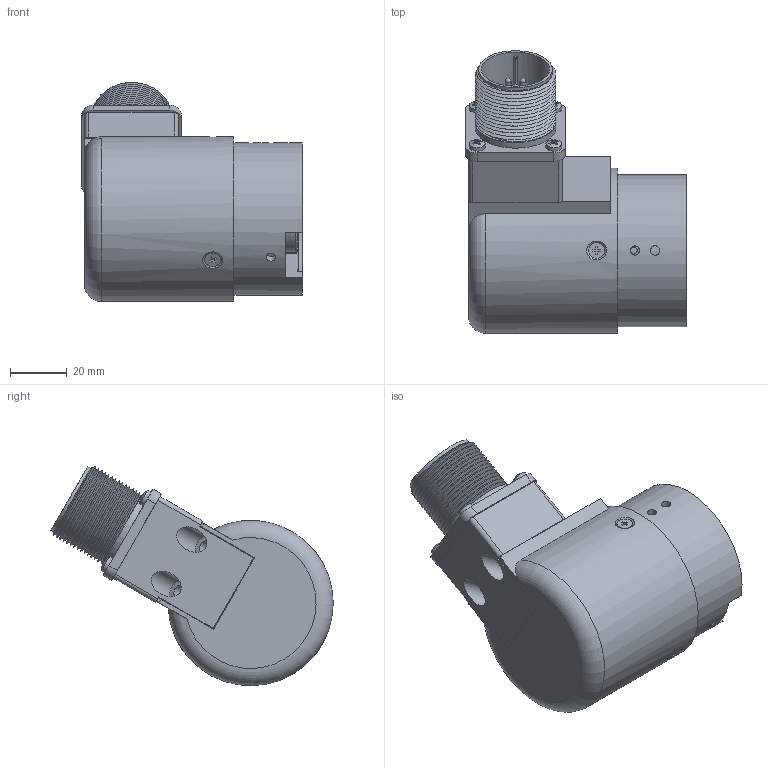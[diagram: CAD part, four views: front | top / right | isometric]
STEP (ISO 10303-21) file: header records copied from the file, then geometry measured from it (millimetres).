
FILE_DESCRIPTION( ( 'Unknown' ), '1' );
FILE_NAME( 'C:/Users/malfermoa/Desktop/step/EL_53B_albero 10 uscita MR.stp', 'Unknown', ( 'Unknown' ), ( 'Unknown' ), 'PSStep 15.0.49', 'Unknown', ' ' );
FILE_SCHEMA( ( 'AUTOMOTIVE_DESIGN { 1 0 10303 214 1 1 1 1 }' ) );
Length unit declared in the file: millimetre
Products named in the file (2): 44010005_A1
Bounding box: 77.5 x 99.15 x 77 mm (x, y, z)
Volume: 127448.6 mm3; surface area: 68189 mm2
Topology: 2 solids, 10 shells, 594 faces, 1556 edges, 1016 vertices
Faces by surface type: plane 265, cylinder 222, bspline 49, cone 31, torus 15, sphere 12
Full cylindrical faces by diameter (mm): 2 x22, 2.05 x2, 2.2 x12, 2.459 x4, 2.5 x10, 2.6 x10, 3 x4, 3.2 x4, 3.3 x3, 3.5 x3, 4.5 x2, 5.6 x7, 6 x2, 7 x1, 8 x2, 9 x1, 10 x10, 10.5 x1, 11 x1, 12 x1, 13 x1, 13.8 x1, 19 x1, 22 x2, 23 x1, 23.5 x5, 23.9 x1, 25 x1, 25.2 x1, 26 x15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
Entity records: 33973 total; most frequent: CARTESIAN_POINT 17611, ORIENTED_EDGE 2308, DIRECTION 2261, EDGE_CURVE 1154, AXIS2_PLACEMENT_3D 867, VERTEX_POINT 848, EDGE_LOOP 824, FACE_OUTER_BOUND 685
